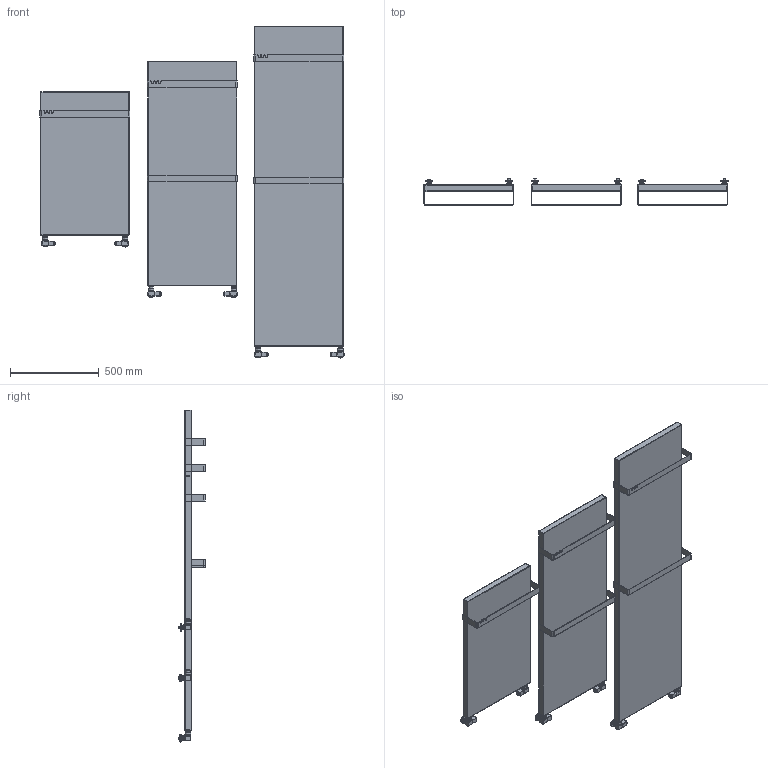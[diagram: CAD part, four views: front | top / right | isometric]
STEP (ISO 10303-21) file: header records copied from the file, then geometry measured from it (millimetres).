
FILE_DESCRIPTION ((), '1');
FILE_NAME ('/Users/melo21casa/Desktop/3D x Diliberto/Uni-Platt 3 mod25.stp', '2025-09-18T12:22:18', ('Unknown'), ('Unknown'), 'HarmonyWare STEP v2.1.7', 'Vectorworks', '');
FILE_SCHEMA (('CONFIG_CONTROL_DESIGN'));
Bounding box: 1710.32 x 150.82 x 1866.36 mm (x, y, z)
Volume: 72104965.4 mm3; surface area: 4668322.1 mm2
Topology: 29 solids, 1277 shells, 2488 faces, 8906 edges, 7643 vertices
Faces by surface type: bspline 2488
Entity records: 130784 total; most frequent: CARTESIAN_POINT 85807, ORIENTED_EDGE 11293, EDGE_CURVE 8282, VERTEX_POINT 7067, B_SPLINE_CURVE_WITH_KNOTS 7053, EDGE_LOOP 2578, FACE_OUTER_BOUND 2488, ADVANCED_FACE 2488
